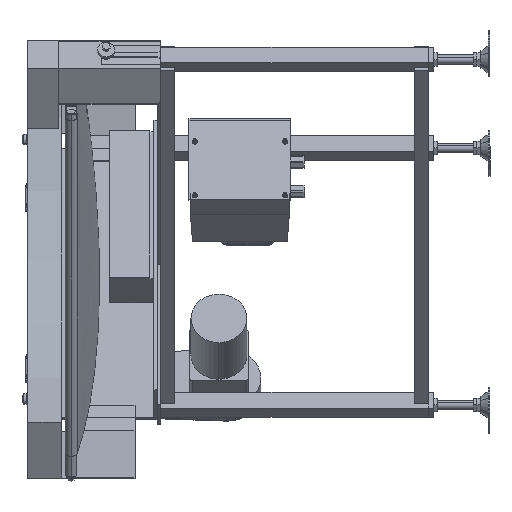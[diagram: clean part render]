
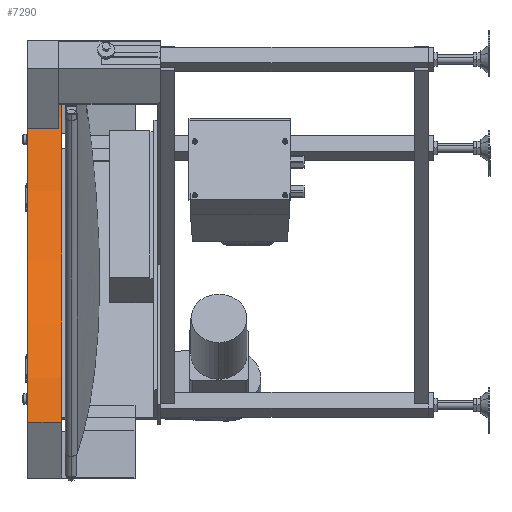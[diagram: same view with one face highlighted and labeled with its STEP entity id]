
A CAD part, left-side view. The second image highlights one B-rep face of the part: STEP entity #7290.
In plain terms, the highlighted cylindrical face has radius 780 mm (diameter 1560 mm), a partial arc.
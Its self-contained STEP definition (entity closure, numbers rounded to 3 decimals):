
#1049 = CIRCLE ( 'NONE', #29879, 780. ) ;
#1682 = DIRECTION ( 'NONE',  ( -1., 0., 0. ) ) ;
#2274 = CARTESIAN_POINT ( 'NONE',  ( 780., 0., 0. ) ) ;
#4129 = VERTEX_POINT ( 'NONE', #30357 ) ;
#4578 = CYLINDRICAL_SURFACE ( 'NONE', #28849, 780. ) ;
#4826 = LINE ( 'NONE', #2274, #37285 ) ;
#5049 = CARTESIAN_POINT ( 'NONE',  ( 0., 8., 0. ) ) ;
#5072 = FACE_OUTER_BOUND ( 'NONE', #30580, .T. ) ;
#6807 = EDGE_CURVE ( 'NONE', #28038, #21901, #13230, .T. ) ;
#7290 = ADVANCED_FACE ( 'NONE', ( #5072 ), #4578, .F. ) ;
#7384 = ORIENTED_EDGE ( 'NONE', *, *, #6807, .F. ) ;
#7602 = DIRECTION ( 'NONE',  ( 0., 1., 0. ) ) ;
#12134 = DIRECTION ( 'NONE',  ( 0., 1., 0. ) ) ;
#13230 = CIRCLE ( 'NONE', #22159, 780. ) ;
#13437 = CARTESIAN_POINT ( 'NONE',  ( 390., 0., -675.5 ) ) ;
#13780 = CARTESIAN_POINT ( 'NONE',  ( 390., 68., -675.5 ) ) ;
#14745 = ORIENTED_EDGE ( 'NONE', *, *, #17674, .F. ) ;
#16639 = DIRECTION ( 'NONE',  ( 0., 1., 0. ) ) ;
#17072 = ORIENTED_EDGE ( 'NONE', *, *, #24273, .T. ) ;
#17674 = EDGE_CURVE ( 'NONE', #25183, #4129, #1049, .T. ) ;
#18165 = EDGE_CURVE ( 'NONE', #4129, #28038, #36853, .T. ) ;
#21901 = VERTEX_POINT ( 'NONE', #39578 ) ;
#22159 = AXIS2_PLACEMENT_3D ( 'NONE', #24071, #39133, #30551 ) ;
#24071 = CARTESIAN_POINT ( 'NONE',  ( 0., 68., 0. ) ) ;
#24273 = EDGE_CURVE ( 'NONE', #25183, #21901, #4826, .T. ) ;
#24645 = CARTESIAN_POINT ( 'NONE',  ( 780., 8., 0. ) ) ;
#25183 = VERTEX_POINT ( 'NONE', #24645 ) ;
#28038 = VERTEX_POINT ( 'NONE', #13780 ) ;
#28849 = AXIS2_PLACEMENT_3D ( 'NONE', #30672, #12134, #30954 ) ;
#29879 = AXIS2_PLACEMENT_3D ( 'NONE', #5049, #7602, #1682 ) ;
#30164 = VECTOR ( 'NONE', #16639, 1000. ) ;
#30357 = CARTESIAN_POINT ( 'NONE',  ( 390., 8., -675.5 ) ) ;
#30551 = DIRECTION ( 'NONE',  ( 1., 0., 0. ) ) ;
#30580 = EDGE_LOOP ( 'NONE', ( #39565, #14745, #17072, #7384 ) ) ;
#30672 = CARTESIAN_POINT ( 'NONE',  ( 0., 0., 0. ) ) ;
#30954 = DIRECTION ( 'NONE',  ( 1., 0., 0. ) ) ;
#32722 = DIRECTION ( 'NONE',  ( 0., 1., 0. ) ) ;
#36853 = LINE ( 'NONE', #13437, #30164 ) ;
#37285 = VECTOR ( 'NONE', #32722, 1000. ) ;
#39133 = DIRECTION ( 'NONE',  ( 0., -1., 0. ) ) ;
#39565 = ORIENTED_EDGE ( 'NONE', *, *, #18165, .F. ) ;
#39578 = CARTESIAN_POINT ( 'NONE',  ( 780., 68., 0. ) ) ;
